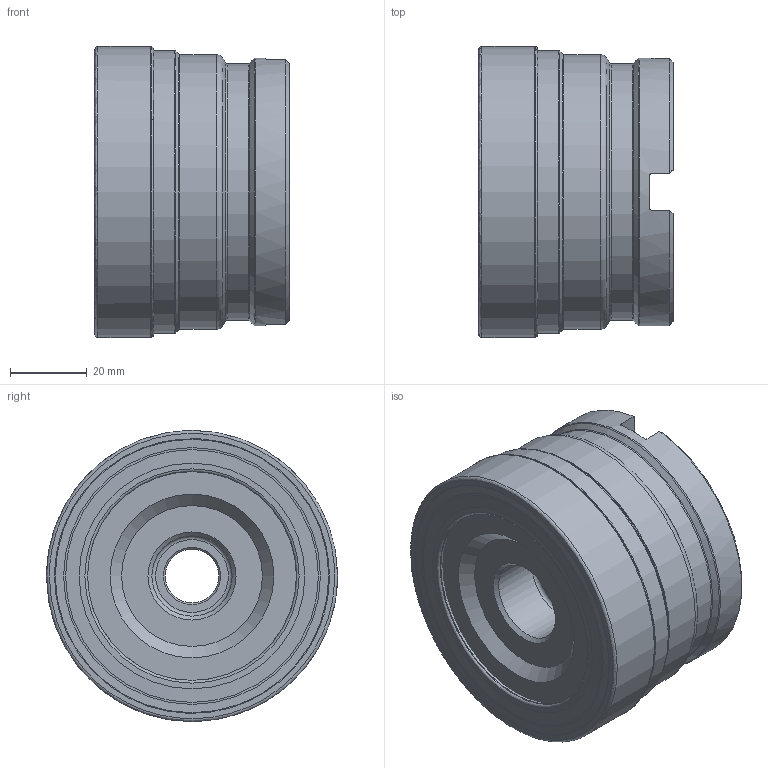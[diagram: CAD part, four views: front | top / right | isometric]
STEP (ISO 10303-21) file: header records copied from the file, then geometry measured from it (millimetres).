
FILE_DESCRIPTION(/* description */ (''),/* implementation_level */ '2;1');
FILE_NAME(/* name */ 'emp13-3.00''''-a1.00''''-an15-06c.stp',/* time_stamp */ '2021-06-17T15:23:23+08:00',/* author */ (''),/* organization */ (''),/* preprocessor_version */ 'ST-DEVELOPER v16.7',/* originating_system */ 'SIEMENS PLM Software NX 12.0',/* authorisation */ '');
FILE_SCHEMA (('AUTOMOTIVE_DESIGN { 1 0 10303 214 3 1 1 1 }'));
Length unit declared in the file: millimetre
Products named in the file (1): liuj1E246CBAu07o
Bounding box: 50.8 x 76.05 x 76.05 mm (x, y, z)
Volume: 205410.4 mm3; surface area: 33003.7 mm2
Topology: 2 solids, 2 shells, 81 faces, 188 edges, 114 vertices
Faces by surface type: plane 21, revolution 21, cone 14, torus 13, cylinder 12
Full cylindrical faces by diameter (mm): 14 x1, 21 x1, 25.4 x1, 27.4 x1, 67 x1, 70 x1, 71.8 x1, 73.8 x1
Entity records: 2351 total; most frequent: CARTESIAN_POINT 804, DIRECTION 299, ORIENTED_EDGE 240, EDGE_LOOP 138, AXIS2_PLACEMENT_3D 127, EDGE_CURVE 120, FACE_BOUND 114, VERTEX_POINT 96
